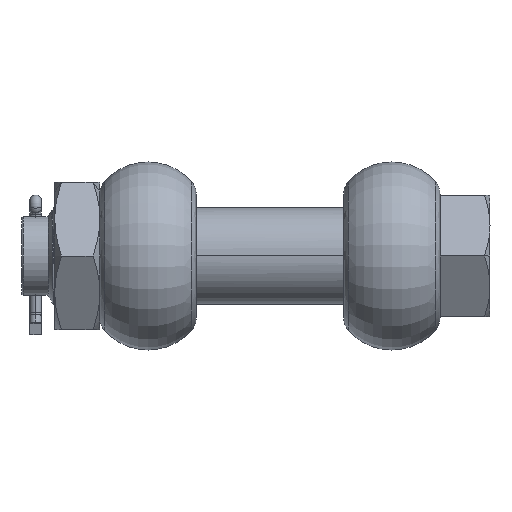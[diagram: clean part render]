
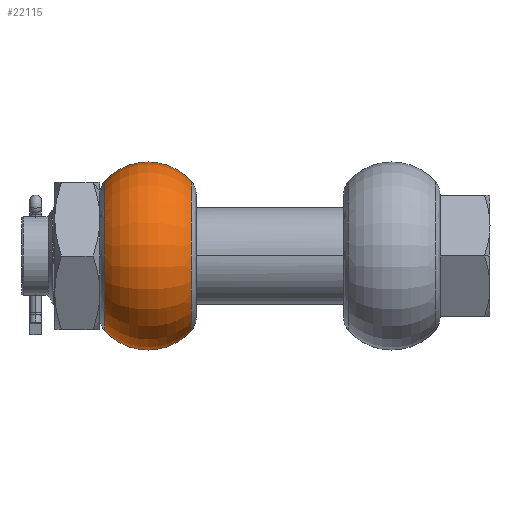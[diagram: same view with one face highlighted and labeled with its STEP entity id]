
A CAD part, front view. The second image highlights one B-rep face of the part: STEP entity #22115.
In plain terms, the highlighted toroidal (fillet/blend) face has major radius 31.2 mm and minor radius 49.8 mm.
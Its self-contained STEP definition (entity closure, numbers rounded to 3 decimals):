
#7750 = DIRECTION ( 'NONE',  ( 0., 1., 0. ) ) ;
#7751 = DIRECTION ( 'NONE',  ( -1., 0., 0. ) ) ;
#7752 = CARTESIAN_POINT ( 'NONE',  ( -142.35, 0., 0. ) ) ;
#7753 = AXIS2_PLACEMENT_3D ( 'NONE', #7752, #7751, #7750 ) ;
#7754 = CIRCLE ( 'NONE', #7753, 64.14 ) ;
#7755 = DIRECTION ( 'NONE',  ( 0., 0., -1. ) ) ;
#7756 = DIRECTION ( 'NONE',  ( 1., 0., 0. ) ) ;
#7757 = CARTESIAN_POINT ( 'NONE',  ( -105., 0., 0. ) ) ;
#7758 = AXIS2_PLACEMENT_3D ( 'NONE', #7757, #7756, #7755 ) ;
#7765 = TOROIDAL_SURFACE ( 'NONE', #7758, 31.2, 49.8 ) ;
#7766 = FACE_OUTER_BOUND ( 'NONE', #22118, .T. ) ;
#8123 = CARTESIAN_POINT ( 'NONE',  ( -142.35, 0., 64.14 ) ) ;
#8126 = CARTESIAN_POINT ( 'NONE',  ( -67.65, 0., 64.14 ) ) ;
#8127 = DIRECTION ( 'NONE',  ( 0., 0., 1. ) ) ;
#8128 = DIRECTION ( 'NONE',  ( 0., 1., 0. ) ) ;
#8129 = CARTESIAN_POINT ( 'NONE',  ( -105., 0., 31.2 ) ) ;
#8130 = AXIS2_PLACEMENT_3D ( 'NONE', #8129, #8128, #8127 ) ;
#8131 = CIRCLE ( 'NONE', #8130, 49.8 ) ;
#8176 = DIRECTION ( 'NONE',  ( 0., 0., 1. ) ) ;
#8177 = DIRECTION ( 'NONE',  ( 1., 0., 0. ) ) ;
#8178 = CARTESIAN_POINT ( 'NONE',  ( -67.65, 0., 0. ) ) ;
#8179 = AXIS2_PLACEMENT_3D ( 'NONE', #8178, #8177, #8176 ) ;
#8180 = CIRCLE ( 'NONE', #8179, 64.14 ) ;
#8181 = CARTESIAN_POINT ( 'NONE',  ( -67.65, 0., -64.14 ) ) ;
#8182 = DIRECTION ( 'NONE',  ( 0., 0., -1. ) ) ;
#8183 = DIRECTION ( 'NONE',  ( 0., -1., 0. ) ) ;
#8184 = CARTESIAN_POINT ( 'NONE',  ( -105., 0., -31.2 ) ) ;
#8185 = AXIS2_PLACEMENT_3D ( 'NONE', #8184, #8183, #8182 ) ;
#8186 = CIRCLE ( 'NONE', #8185, 49.8 ) ;
#8193 = CARTESIAN_POINT ( 'NONE',  ( -142.35, 0., -64.14 ) ) ;
#22115 = ADVANCED_FACE ( 'NONE', ( #7766 ), #7765, .T. ) ;
#22118 = EDGE_LOOP ( 'NONE', ( #22120, #22122, #22394, #22400 ) ) ;
#22120 = ORIENTED_EDGE ( 'NONE', *, *, #22362, .F. ) ;
#22122 = ORIENTED_EDGE ( 'NONE', *, *, #22124, .F. ) ;
#22124 = EDGE_CURVE ( 'NONE', #22393, #22335, #7754, .T. ) ;
#22335 = VERTEX_POINT ( 'NONE', #8123 ) ;
#22362 = EDGE_CURVE ( 'NONE', #22335, #22365, #8131, .T. ) ;
#22365 = VERTEX_POINT ( 'NONE', #8126 ) ;
#22393 = VERTEX_POINT ( 'NONE', #8193 ) ;
#22394 = ORIENTED_EDGE ( 'NONE', *, *, #22397, .T. ) ;
#22397 = EDGE_CURVE ( 'NONE', #22393, #22399, #8186, .T. ) ;
#22399 = VERTEX_POINT ( 'NONE', #8181 ) ;
#22400 = ORIENTED_EDGE ( 'NONE', *, *, #22401, .F. ) ;
#22401 = EDGE_CURVE ( 'NONE', #22365, #22399, #8180, .T. ) ;
